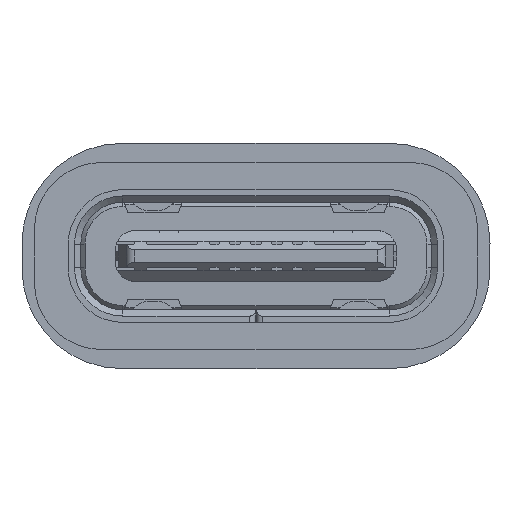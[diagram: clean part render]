
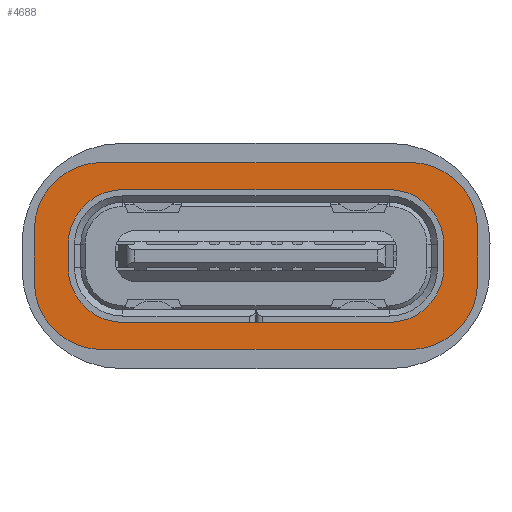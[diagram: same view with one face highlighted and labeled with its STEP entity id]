
A CAD part, front view. The second image highlights one B-rep face of the part: STEP entity #4688.
In plain terms, the highlighted planar face has unit normal (0, -1, 0).
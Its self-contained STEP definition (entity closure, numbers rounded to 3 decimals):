
#416 = VERTEX_POINT ( 'NONE', #15732 ) ;
#709 = DIRECTION ( 'NONE',  ( 1., 0., 0. ) ) ;
#858 = VERTEX_POINT ( 'NONE', #1182 ) ;
#1095 = VERTEX_POINT ( 'NONE', #19718 ) ;
#1182 = CARTESIAN_POINT ( 'NONE',  ( -3.945, -3.875, 19.424 ) ) ;
#1446 = DIRECTION ( 'NONE',  ( 1., 0., 0. ) ) ;
#1855 = VERTEX_POINT ( 'NONE', #38555 ) ;
#1969 = ORIENTED_EDGE ( 'NONE', *, *, #16373, .T. ) ;
#2010 = EDGE_LOOP ( 'NONE', ( #3607, #16691, #6080, #17023, #20063, #4132, #8438, #4536 ) ) ;
#2073 = CARTESIAN_POINT ( 'NONE',  ( 5.8, -3.875, 20.329 ) ) ;
#2627 = AXIS2_PLACEMENT_3D ( 'NONE', #29794, #13166, #709 ) ;
#2706 = DIRECTION ( 'NONE',  ( 1., 0., 0. ) ) ;
#2901 = EDGE_CURVE ( 'NONE', #26325, #7103, #5389, .T. ) ;
#3096 = DIRECTION ( 'NONE',  ( -1., 0., 0. ) ) ;
#3263 = AXIS2_PLACEMENT_3D ( 'NONE', #23065, #23721, #16482 ) ;
#3293 = CARTESIAN_POINT ( 'NONE',  ( -4.75, -3.875, 20.329 ) ) ;
#3361 = VECTOR ( 'NONE', #3096, 1000. ) ;
#3388 = CARTESIAN_POINT ( 'NONE',  ( -3.15, -3.875, 19.079 ) ) ;
#3607 = ORIENTED_EDGE ( 'NONE', *, *, #6358, .F. ) ;
#4021 = CARTESIAN_POINT ( 'NONE',  ( -4.75, -3.875, 19.079 ) ) ;
#4132 = ORIENTED_EDGE ( 'NONE', *, *, #2901, .F. ) ;
#4536 = ORIENTED_EDGE ( 'NONE', *, *, #21720, .F. ) ;
#4688 = ADVANCED_FACE ( 'NONE', ( #39860, #26514 ), #19940, .T. ) ;
#5346 = EDGE_CURVE ( 'NONE', #10083, #28138, #26378, .T. ) ;
#5389 = CIRCLE ( 'NONE', #11692, 1.3 ) ;
#6080 = ORIENTED_EDGE ( 'NONE', *, *, #11526, .F. ) ;
#6220 = AXIS2_PLACEMENT_3D ( 'NONE', #41005, #34220, #36840 ) ;
#6326 = EDGE_LOOP ( 'NONE', ( #20888, #6353, #14020, #12379, #1969, #23912, #19409, #32122 ) ) ;
#6353 = ORIENTED_EDGE ( 'NONE', *, *, #22411, .T. ) ;
#6358 = EDGE_CURVE ( 'NONE', #7476, #858, #9298, .T. ) ;
#6376 = DIRECTION ( 'NONE',  ( 0., -1., 0. ) ) ;
#6755 = DIRECTION ( 'NONE',  ( 1., 0., 0. ) ) ;
#6916 = CARTESIAN_POINT ( 'NONE',  ( -3.15, -3.875, 21.929 ) ) ;
#7103 = VERTEX_POINT ( 'NONE', #24998 ) ;
#7476 = VERTEX_POINT ( 'NONE', #18169 ) ;
#7768 = EDGE_CURVE ( 'NONE', #1855, #26325, #42725, .T. ) ;
#7909 = EDGE_CURVE ( 'NONE', #43153, #10083, #17119, .T. ) ;
#8106 = CARTESIAN_POINT ( 'NONE',  ( 4.2, -3.875, 17.479 ) ) ;
#8211 = AXIS2_PLACEMENT_3D ( 'NONE', #3388, #23512, #16069 ) ;
#8438 = ORIENTED_EDGE ( 'NONE', *, *, #7768, .F. ) ;
#8878 = DIRECTION ( 'NONE',  ( 0., 0., -1. ) ) ;
#9298 = LINE ( 'NONE', #25311, #12059 ) ;
#9445 = LINE ( 'NONE', #23675, #3361 ) ;
#9659 = DIRECTION ( 'NONE',  ( 0., 0., -1. ) ) ;
#9715 = EDGE_CURVE ( 'NONE', #1095, #416, #36897, .T. ) ;
#9810 = CARTESIAN_POINT ( 'NONE',  ( -2.645, -3.875, 21.284 ) ) ;
#10004 = EDGE_CURVE ( 'NONE', #416, #43153, #11671, .T. ) ;
#10083 = VERTEX_POINT ( 'NONE', #4021 ) ;
#10398 = EDGE_CURVE ( 'NONE', #38314, #39753, #43122, .T. ) ;
#11292 = CIRCLE ( 'NONE', #14087, 1.3 ) ;
#11526 = EDGE_CURVE ( 'NONE', #25256, #19658, #9445, .T. ) ;
#11671 = CIRCLE ( 'NONE', #3263, 1.6 ) ;
#11692 = AXIS2_PLACEMENT_3D ( 'NONE', #24187, #41043, #24843 ) ;
#12059 = VECTOR ( 'NONE', #8878, 1000. ) ;
#12379 = ORIENTED_EDGE ( 'NONE', *, *, #10398, .T. ) ;
#12467 = AXIS2_PLACEMENT_3D ( 'NONE', #28784, #24628, #1446 ) ;
#13163 = CARTESIAN_POINT ( 'NONE',  ( 5.8, -3.875, 20.329 ) ) ;
#13166 = DIRECTION ( 'NONE',  ( 0., -1., 0. ) ) ;
#13369 = CARTESIAN_POINT ( 'NONE',  ( -3.15, -3.875, 19.079 ) ) ;
#14020 = ORIENTED_EDGE ( 'NONE', *, *, #14210, .T. ) ;
#14087 = AXIS2_PLACEMENT_3D ( 'NONE', #26595, #29651, #42984 ) ;
#14210 = EDGE_CURVE ( 'NONE', #26645, #38314, #27163, .T. ) ;
#14415 = CARTESIAN_POINT ( 'NONE',  ( 3.695, -3.875, 18.124 ) ) ;
#14735 = DIRECTION ( 'NONE',  ( 0., 0., 1. ) ) ;
#15579 = CARTESIAN_POINT ( 'NONE',  ( 3.695, -3.875, 19.984 ) ) ;
#15732 = CARTESIAN_POINT ( 'NONE',  ( -3.15, -3.875, 21.929 ) ) ;
#16069 = DIRECTION ( 'NONE',  ( 1., 0., 0. ) ) ;
#16373 = EDGE_CURVE ( 'NONE', #39753, #1095, #21512, .T. ) ;
#16482 = DIRECTION ( 'NONE',  ( 1., 0., 0. ) ) ;
#16494 = CARTESIAN_POINT ( 'NONE',  ( 3.695, -3.875, 21.284 ) ) ;
#16594 = CARTESIAN_POINT ( 'NONE',  ( -3.15, -3.875, 17.479 ) ) ;
#16691 = ORIENTED_EDGE ( 'NONE', *, *, #41227, .F. ) ;
#17023 = ORIENTED_EDGE ( 'NONE', *, *, #24416, .F. ) ;
#17119 = LINE ( 'NONE', #26980, #31604 ) ;
#18169 = CARTESIAN_POINT ( 'NONE',  ( -3.945, -3.875, 19.984 ) ) ;
#19092 = DIRECTION ( 'NONE',  ( 1., 0., 0. ) ) ;
#19409 = ORIENTED_EDGE ( 'NONE', *, *, #10004, .T. ) ;
#19658 = VERTEX_POINT ( 'NONE', #9810 ) ;
#19718 = CARTESIAN_POINT ( 'NONE',  ( 4.2, -3.875, 21.929 ) ) ;
#19940 = PLANE ( 'NONE',  #36633 ) ;
#20063 = ORIENTED_EDGE ( 'NONE', *, *, #30189, .F. ) ;
#20201 = DIRECTION ( 'NONE',  ( 0., 0., -1. ) ) ;
#20888 = ORIENTED_EDGE ( 'NONE', *, *, #5346, .T. ) ;
#21512 = CIRCLE ( 'NONE', #2627, 1.6 ) ;
#21720 = EDGE_CURVE ( 'NONE', #858, #1855, #24320, .T. ) ;
#21923 = VECTOR ( 'NONE', #34488, 1000. ) ;
#22411 = EDGE_CURVE ( 'NONE', #28138, #26645, #27126, .T. ) ;
#23065 = CARTESIAN_POINT ( 'NONE',  ( -3.15, -3.875, 20.329 ) ) ;
#23203 = VECTOR ( 'NONE', #2706, 1000. ) ;
#23219 = DIRECTION ( 'NONE',  ( 0., 0., 1. ) ) ;
#23512 = DIRECTION ( 'NONE',  ( 0., -1., 0. ) ) ;
#23675 = CARTESIAN_POINT ( 'NONE',  ( 3.695, -3.875, 21.284 ) ) ;
#23721 = DIRECTION ( 'NONE',  ( 0., -1., 0. ) ) ;
#23912 = ORIENTED_EDGE ( 'NONE', *, *, #9715, .T. ) ;
#24187 = CARTESIAN_POINT ( 'NONE',  ( 3.695, -3.875, 19.424 ) ) ;
#24320 = CIRCLE ( 'NONE', #6220, 1.3 ) ;
#24416 = EDGE_CURVE ( 'NONE', #43042, #25256, #31361, .T. ) ;
#24628 = DIRECTION ( 'NONE',  ( 0., -1., 0. ) ) ;
#24843 = DIRECTION ( 'NONE',  ( 1., 0., 0. ) ) ;
#24974 = VECTOR ( 'NONE', #14735, 1000. ) ;
#24998 = CARTESIAN_POINT ( 'NONE',  ( 4.995, -3.875, 19.424 ) ) ;
#25256 = VERTEX_POINT ( 'NONE', #16494 ) ;
#25311 = CARTESIAN_POINT ( 'NONE',  ( -3.945, -3.875, 19.984 ) ) ;
#26325 = VERTEX_POINT ( 'NONE', #14415 ) ;
#26378 = CIRCLE ( 'NONE', #8211, 1.6 ) ;
#26514 = FACE_OUTER_BOUND ( 'NONE', #6326, .T. ) ;
#26595 = CARTESIAN_POINT ( 'NONE',  ( -2.645, -3.875, 19.984 ) ) ;
#26645 = VERTEX_POINT ( 'NONE', #8106 ) ;
#26980 = CARTESIAN_POINT ( 'NONE',  ( -4.75, -3.875, 20.329 ) ) ;
#27126 = LINE ( 'NONE', #36962, #29231 ) ;
#27163 = CIRCLE ( 'NONE', #12467, 1.6 ) ;
#27892 = LINE ( 'NONE', #41234, #24974 ) ;
#28138 = VERTEX_POINT ( 'NONE', #16594 ) ;
#28167 = CARTESIAN_POINT ( 'NONE',  ( 5.8, -3.875, 19.079 ) ) ;
#28784 = CARTESIAN_POINT ( 'NONE',  ( 4.2, -3.875, 19.079 ) ) ;
#29231 = VECTOR ( 'NONE', #6755, 1000. ) ;
#29651 = DIRECTION ( 'NONE',  ( 0., -1., 0. ) ) ;
#29794 = CARTESIAN_POINT ( 'NONE',  ( 4.2, -3.875, 20.329 ) ) ;
#30189 = EDGE_CURVE ( 'NONE', #7103, #43042, #27892, .T. ) ;
#31276 = VECTOR ( 'NONE', #23219, 1000. ) ;
#31361 = CIRCLE ( 'NONE', #36217, 1.3 ) ;
#31604 = VECTOR ( 'NONE', #20201, 1000. ) ;
#32122 = ORIENTED_EDGE ( 'NONE', *, *, #7909, .T. ) ;
#34220 = DIRECTION ( 'NONE',  ( 0., -1., 0. ) ) ;
#34488 = DIRECTION ( 'NONE',  ( -1., 0., 0. ) ) ;
#35543 = CARTESIAN_POINT ( 'NONE',  ( -2.645, -3.875, 18.124 ) ) ;
#36217 = AXIS2_PLACEMENT_3D ( 'NONE', #15579, #6376, #19092 ) ;
#36633 = AXIS2_PLACEMENT_3D ( 'NONE', #13369, #36781, #9659 ) ;
#36781 = DIRECTION ( 'NONE',  ( 0., -1., 0. ) ) ;
#36840 = DIRECTION ( 'NONE',  ( 1., 0., 0. ) ) ;
#36897 = LINE ( 'NONE', #6916, #21923 ) ;
#36962 = CARTESIAN_POINT ( 'NONE',  ( -3.15, -3.875, 17.479 ) ) ;
#38314 = VERTEX_POINT ( 'NONE', #28167 ) ;
#38555 = CARTESIAN_POINT ( 'NONE',  ( -2.645, -3.875, 18.124 ) ) ;
#39621 = CARTESIAN_POINT ( 'NONE',  ( 4.995, -3.875, 19.984 ) ) ;
#39753 = VERTEX_POINT ( 'NONE', #2073 ) ;
#39860 = FACE_BOUND ( 'NONE', #2010, .T. ) ;
#41005 = CARTESIAN_POINT ( 'NONE',  ( -2.645, -3.875, 19.424 ) ) ;
#41043 = DIRECTION ( 'NONE',  ( 0., -1., 0. ) ) ;
#41227 = EDGE_CURVE ( 'NONE', #19658, #7476, #11292, .T. ) ;
#41234 = CARTESIAN_POINT ( 'NONE',  ( 4.995, -3.875, 19.424 ) ) ;
#42725 = LINE ( 'NONE', #35543, #23203 ) ;
#42984 = DIRECTION ( 'NONE',  ( 1., 0., 0. ) ) ;
#43042 = VERTEX_POINT ( 'NONE', #39621 ) ;
#43122 = LINE ( 'NONE', #13163, #31276 ) ;
#43153 = VERTEX_POINT ( 'NONE', #3293 ) ;
